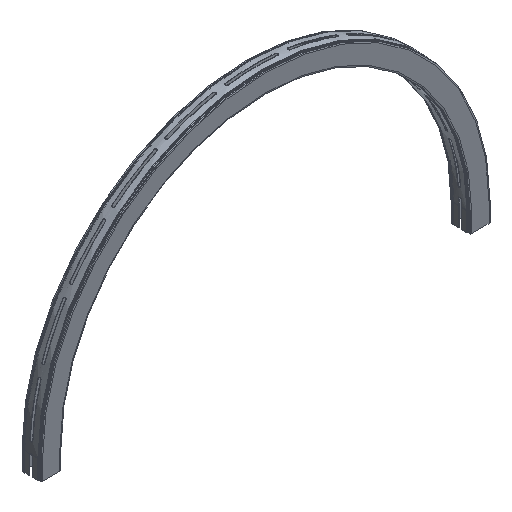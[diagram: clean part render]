
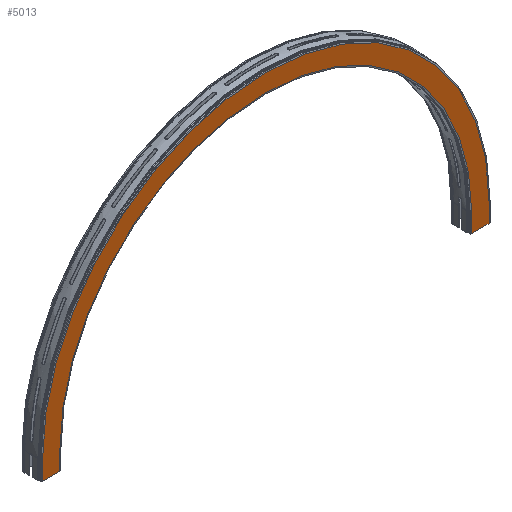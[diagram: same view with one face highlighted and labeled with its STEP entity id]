
A CAD part, isometric view. The second image highlights one B-rep face of the part: STEP entity #5013.
In plain terms, the highlighted planar face has unit normal (0, -1, 0).
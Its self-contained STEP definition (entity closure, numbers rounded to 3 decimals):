
#599=FACE_OUTER_BOUND('',#907,.T.);
#907=EDGE_LOOP('',(#4585,#4586,#4587,#4588,#4589,#4590,#4591,#4592));
#1073=CIRCLE('',#5390,936.5);
#1076=CIRCLE('',#5396,863.5);
#1482=LINE('',#10829,#1916);
#1487=LINE('',#10838,#1921);
#1489=LINE('',#10843,#1923);
#1504=LINE('',#10883,#1938);
#1509=LINE('',#10894,#1943);
#1510=LINE('',#10896,#1944);
#1916=VECTOR('',#6499,10.);
#1921=VECTOR('',#6506,10.);
#1923=VECTOR('',#6510,10.);
#1938=VECTOR('',#6551,10.);
#1943=VECTOR('',#6564,10.);
#1944=VECTOR('',#6567,10.);
#2400=VERTEX_POINT('',#10826);
#2401=VERTEX_POINT('',#10828);
#2404=VERTEX_POINT('',#10835);
#2405=VERTEX_POINT('',#10840);
#2415=VERTEX_POINT('',#10866);
#2417=VERTEX_POINT('',#10876);
#2418=VERTEX_POINT('',#10881);
#2420=VERTEX_POINT('',#10892);
#3112=EDGE_CURVE('',#2401,#2400,#1482,.T.);
#3117=EDGE_CURVE('',#2401,#2404,#1487,.T.);
#3119=EDGE_CURVE('',#2400,#2405,#1489,.T.);
#3132=EDGE_CURVE('',#2405,#2415,#1073,.T.);
#3138=EDGE_CURVE('',#2404,#2417,#1076,.T.);
#3140=EDGE_CURVE('',#2415,#2418,#1504,.T.);
#3145=EDGE_CURVE('',#2417,#2420,#1509,.T.);
#3146=EDGE_CURVE('',#2418,#2420,#1510,.T.);
#4585=ORIENTED_EDGE('',*,*,#3146,.T.);
#4586=ORIENTED_EDGE('',*,*,#3145,.F.);
#4587=ORIENTED_EDGE('',*,*,#3138,.F.);
#4588=ORIENTED_EDGE('',*,*,#3117,.F.);
#4589=ORIENTED_EDGE('',*,*,#3112,.T.);
#4590=ORIENTED_EDGE('',*,*,#3119,.T.);
#4591=ORIENTED_EDGE('',*,*,#3132,.T.);
#4592=ORIENTED_EDGE('',*,*,#3140,.T.);
#4754=PLANE('',#5402);
#5013=ADVANCED_FACE('',(#599),#4754,.T.);
#5390=AXIS2_PLACEMENT_3D('',#10868,#6531,#6532);
#5396=AXIS2_PLACEMENT_3D('',#10879,#6546,#6547);
#5402=AXIS2_PLACEMENT_3D('',#10895,#6565,#6566);
#6499=DIRECTION('',(1.,0.,0.));
#6506=DIRECTION('',(0.,0.,1.));
#6510=DIRECTION('',(0.,0.,1.));
#6531=DIRECTION('center_axis',(0.,-1.,0.));
#6532=DIRECTION('ref_axis',(1.,0.,0.));
#6546=DIRECTION('center_axis',(0.,-1.,0.));
#6547=DIRECTION('ref_axis',(1.,0.,0.));
#6551=DIRECTION('',(0.,0.,-1.));
#6564=DIRECTION('',(0.,0.,-1.));
#6565=DIRECTION('center_axis',(0.,-1.,0.));
#6566=DIRECTION('ref_axis',(0.,0.,
1.));
#6567=DIRECTION('',(1.,0.,0.));
#10826=CARTESIAN_POINT('',(36.5,-11.,0.));
#10828=CARTESIAN_POINT('',(-36.5,-11.,0.));
#10829=CARTESIAN_POINT('',(-36.5,-11.,0.));
#10835=CARTESIAN_POINT('',(-36.5,-11.,80.));
#10838=CARTESIAN_POINT('',(-36.5,-11.,0.));
#10840=CARTESIAN_POINT('',(36.5,-11.,80.));
#10843=CARTESIAN_POINT('',(36.5,-11.,0.));
#10866=CARTESIAN_POINT('',(-1836.5,-11.,80.));
#10868=CARTESIAN_POINT('Origin',(-900.,-11.,80.));
#10876=CARTESIAN_POINT('',(-1763.5,-11.,80.));
#10879=CARTESIAN_POINT('Origin',(-900.,-11.,80.));
#10881=CARTESIAN_POINT('',(-1836.5,-11.,0.));
#10883=CARTESIAN_POINT('',(-1836.5,-11.,2987.433));
#10892=CARTESIAN_POINT('',(-1763.5,-11.,0.));
#10894=CARTESIAN_POINT('',(-1763.5,-11.,2987.433));
#10895=CARTESIAN_POINT('Origin',(-1836.5,-11.,2987.433));
#10896=CARTESIAN_POINT('',(-1819.75,-11.,0.));
